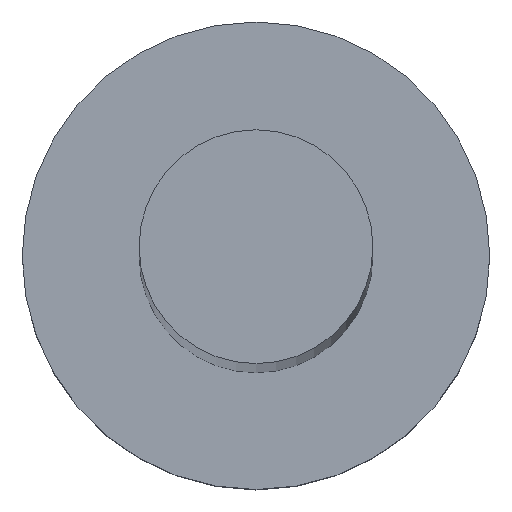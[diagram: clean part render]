
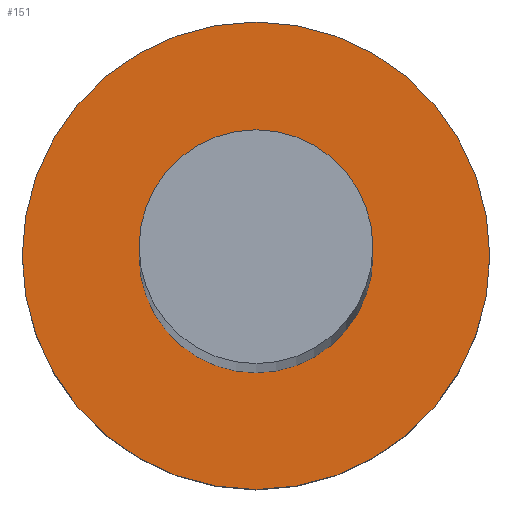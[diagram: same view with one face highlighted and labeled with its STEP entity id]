
A CAD part, top view. The second image highlights one B-rep face of the part: STEP entity #151.
In plain terms, the highlighted planar face has unit normal (0, 0, 1).
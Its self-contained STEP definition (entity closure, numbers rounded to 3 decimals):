
#2 = EDGE_LOOP ( 'NONE', ( #202, #126 ) ) ;
#15 = CIRCLE ( 'NONE', #187, 3. ) ;
#21 = ORIENTED_EDGE ( 'NONE', *, *, #229, .T. ) ;
#28 = CARTESIAN_POINT ( 'NONE',  ( 0., 0., 3. ) ) ;
#33 = DIRECTION ( 'NONE',  ( 0., 0., 1. ) ) ;
#41 = CIRCLE ( 'NONE', #228, 1.5 ) ;
#44 = ORIENTED_EDGE ( 'NONE', *, *, #193, .T. ) ;
#46 = CARTESIAN_POINT ( 'NONE',  ( 0., 0., 3. ) ) ;
#64 = DIRECTION ( 'NONE',  ( 0., 0., 1. ) ) ;
#80 = AXIS2_PLACEMENT_3D ( 'NONE', #159, #106, #178 ) ;
#82 = VERTEX_POINT ( 'NONE', #246 ) ;
#83 = AXIS2_PLACEMENT_3D ( 'NONE', #91, #118, #122 ) ;
#88 = CARTESIAN_POINT ( 'NONE',  ( 3., 0., 3. ) ) ;
#91 = CARTESIAN_POINT ( 'NONE',  ( 0., 0., 3. ) ) ;
#103 = VERTEX_POINT ( 'NONE', #241 ) ;
#104 = PLANE ( 'NONE',  #135 ) ;
#105 = CARTESIAN_POINT ( 'NONE',  ( 0., 0., 3. ) ) ;
#106 = DIRECTION ( 'NONE',  ( 0., 0., 1. ) ) ;
#115 = EDGE_CURVE ( 'NONE', #103, #82, #211, .T. ) ;
#118 = DIRECTION ( 'NONE',  ( 0., 0., 1. ) ) ;
#122 = DIRECTION ( 'NONE',  ( 1., 0., 0. ) ) ;
#126 = ORIENTED_EDGE ( 'NONE', *, *, #115, .F. ) ;
#134 = EDGE_CURVE ( 'NONE', #82, #103, #41, .T. ) ;
#135 = AXIS2_PLACEMENT_3D ( 'NONE', #28, #33, #181 ) ;
#137 = EDGE_LOOP ( 'NONE', ( #21, #44 ) ) ;
#150 = VERTEX_POINT ( 'NONE', #88 ) ;
#151 = ADVANCED_FACE ( 'NONE', ( #240, #182 ), #104, .T. ) ;
#159 = CARTESIAN_POINT ( 'NONE',  ( 0., 0., 3. ) ) ;
#161 = DIRECTION ( 'NONE',  ( 0., 0., 1. ) ) ;
#163 = DIRECTION ( 'NONE',  ( 1., 0., 0. ) ) ;
#172 = CIRCLE ( 'NONE', #80, 3. ) ;
#178 = DIRECTION ( 'NONE',  ( 1., 0., 0. ) ) ;
#181 = DIRECTION ( 'NONE',  ( 1., 0., 0. ) ) ;
#182 = FACE_BOUND ( 'NONE', #2, .T. ) ;
#187 = AXIS2_PLACEMENT_3D ( 'NONE', #105, #161, #245 ) ;
#193 = EDGE_CURVE ( 'NONE', #150, #248, #15, .T. ) ;
#200 = CARTESIAN_POINT ( 'NONE',  ( -3., 0., 3. ) ) ;
#202 = ORIENTED_EDGE ( 'NONE', *, *, #134, .F. ) ;
#211 = CIRCLE ( 'NONE', #83, 1.5 ) ;
#228 = AXIS2_PLACEMENT_3D ( 'NONE', #46, #64, #163 ) ;
#229 = EDGE_CURVE ( 'NONE', #248, #150, #172, .T. ) ;
#240 = FACE_OUTER_BOUND ( 'NONE', #137, .T. ) ;
#241 = CARTESIAN_POINT ( 'NONE',  ( 1.5, 0., 3. ) ) ;
#245 = DIRECTION ( 'NONE',  ( 1., 0., 0. ) ) ;
#246 = CARTESIAN_POINT ( 'NONE',  ( -1.5, 0., 3. ) ) ;
#248 = VERTEX_POINT ( 'NONE', #200 ) ;
